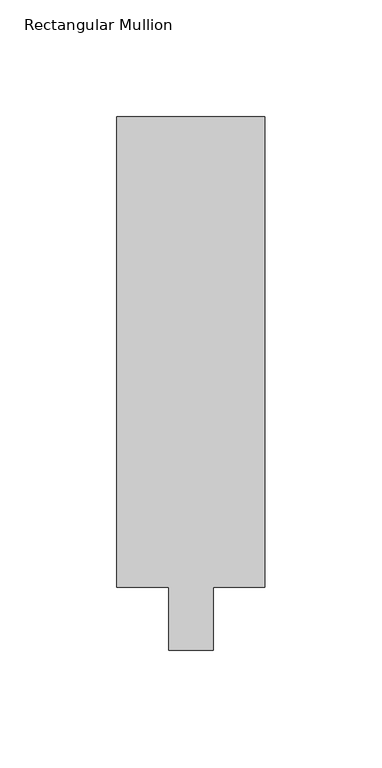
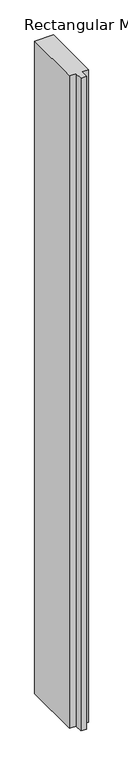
"""IFC4 building model written with IfcOpenShell, lengths in millimetres: member geometry."""

from ifc_helpers import new_model, si_unit, frame, origin, place, context, project, spatial, polyline, outline, extrude, source, transform, mapped, element, save


def rectangular_mullion_3b51f4c8(model_context):
    return source(origin(), model_context, "Body", "SweptSolid", [
        extrude(outline(polyline([(0.0, 228.6), (0.0, 26.9875), (-22.225, 26.9875), (-22.225, 0.0), (-41.275, 0.0), (-41.275, 26.9875), (-63.5, 26.9875), (-63.5, 228.6), (0.0, 228.6)])), frame((0.0, 0.0, -2306.6510357), z_axis=(0.0, 0.0, 1.0), x_axis=(1.0, 0.0, 0.0)), (0.0, 0.0, 1.0), 2306.6510357),
    ])


if __name__ == "__main__":
    model = new_model("IFC4")
    model_context = context("Model", 3, world=origin())
    ifc_project = project(units=[si_unit("LENGTHUNIT", "METRE", prefix="MILLI")], contexts=[model_context])
    site = spatial("IfcSite", under=ifc_project)
    building = spatial("IfcBuilding", under=site)
    placement = place(None, origin())
    rectangular_mullion_shape = rectangular_mullion_3b51f4c8(model_context)
    element("IfcMember", 1, ObjectType="Rectangular Mullion : 2 1/2\" x 8\" - Capless", at=placement, inside=building, context=model_context, shape_type="MappedRepresentation", body=[
        mapped(rectangular_mullion_shape, transform((0.0, 0.0, 0.0), x_axis=(1.0, 0.0, 0.0), y_axis=(0.0, 1.0, 0.0), z_axis=(0.0, 0.0, 1.0))),
    ])
    save(model, "model.ifc")
